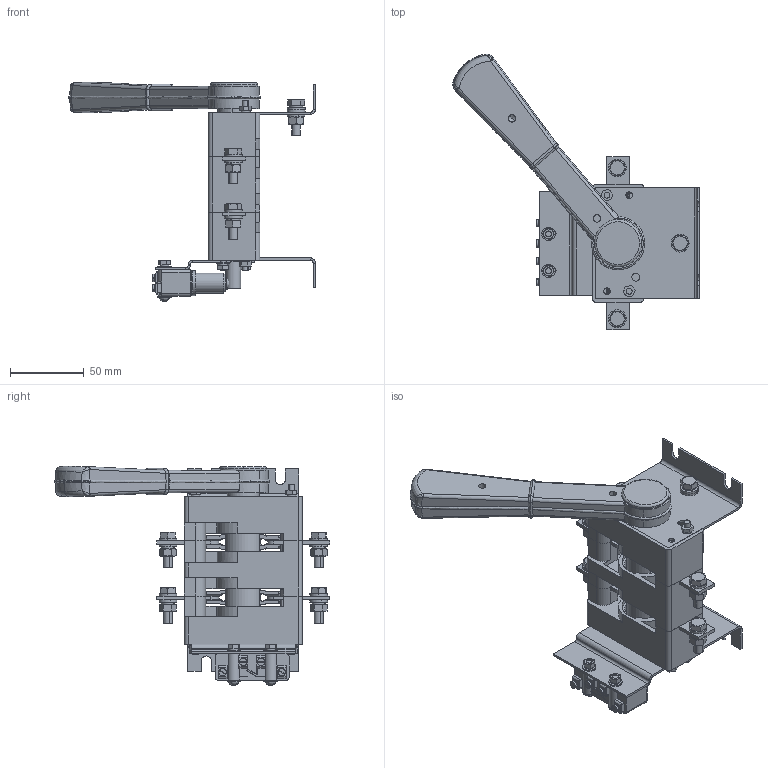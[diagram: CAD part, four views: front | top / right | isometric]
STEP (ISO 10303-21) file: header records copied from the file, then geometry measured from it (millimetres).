
FILE_DESCRIPTION (( 'STEP AP203' ), '1' );
FILE_NAME ('ÂÐ32-31À20221.STEP', '2021-09-02T07:10:53', ( 'user' ), ( '' ), 'SwSTEP 2.0', 'SolidWorks 2010', '' );
FILE_SCHEMA (( 'CONFIG_CONTROL_DESIGN' ));
Length unit declared in the file: millimetre
Products named in the file (1): ﾂﾐ32-31ﾀ20221
Bounding box: 166.87 x 186.38 x 148.26 mm (x, y, z)
Volume: 297511.6 mm3; surface area: 186590.8 mm2
Topology: 115 solids, 115 shells, 2790 faces, 7042 edges, 4563 vertices
Faces by surface type: plane 1408, cylinder 864, bspline 387, cone 94, torus 27, sphere 10
Entity records: 118831 total; most frequent: CARTESIAN_POINT 53419, ORIENTED_EDGE 14060, DIRECTION 12689, EDGE_CURVE 7030, VERTEX_POINT 4563, AXIS2_PLACEMENT_3D 4415, VECTOR 3859, LINE 3859
